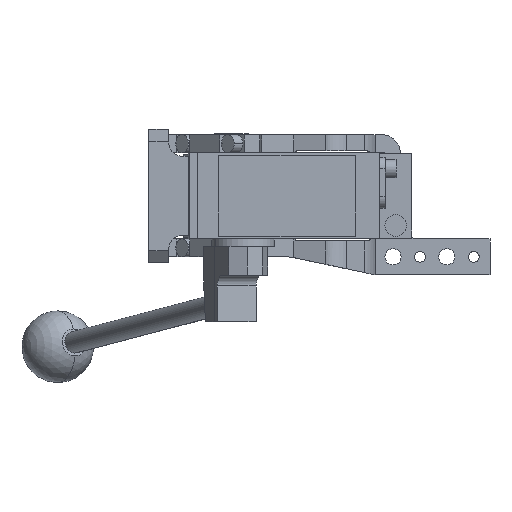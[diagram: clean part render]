
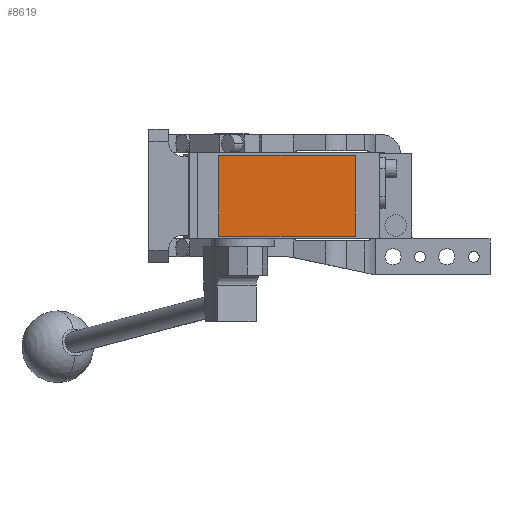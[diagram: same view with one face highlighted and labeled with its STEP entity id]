
A CAD part, front view. The second image highlights one B-rep face of the part: STEP entity #8619.
In plain terms, the highlighted planar face has unit normal (0, -1, 0).
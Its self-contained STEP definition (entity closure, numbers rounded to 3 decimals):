
#1184 = EDGE_LOOP ( 'NONE', ( #5316, #10531, #4760, #8183 ) ) ;
#1994 = PLANE ( 'NONE',  #3265 ) ;
#2323 = DIRECTION ( 'NONE',  ( 0., 0., -1. ) ) ;
#2439 = VECTOR ( 'NONE', #4949, 1000. ) ;
#3101 = EDGE_CURVE ( 'NONE', #3399, #8739, #7223, .T. ) ;
#3265 = AXIS2_PLACEMENT_3D ( 'NONE', #12207, #14716, #2323 ) ;
#3399 = VERTEX_POINT ( 'NONE', #9726 ) ;
#4120 = CARTESIAN_POINT ( 'NONE',  ( -7., -280.5, 22.5 ) ) ;
#4760 = ORIENTED_EDGE ( 'NONE', *, *, #12086, .T. ) ;
#4949 = DIRECTION ( 'NONE',  ( 0., 0., 1. ) ) ;
#5316 = ORIENTED_EDGE ( 'NONE', *, *, #3101, .T. ) ;
#5391 = CARTESIAN_POINT ( 'NONE',  ( 69., -280.5, -22.5 ) ) ;
#6009 = DIRECTION ( 'NONE',  ( 0., 0., -1. ) ) ;
#6017 = LINE ( 'NONE', #13669, #2439 ) ;
#6115 = CARTESIAN_POINT ( 'NONE',  ( -7., -280.5, -22.5 ) ) ;
#7223 = LINE ( 'NONE', #15892, #15905 ) ;
#7536 = VERTEX_POINT ( 'NONE', #7990 ) ;
#7990 = CARTESIAN_POINT ( 'NONE',  ( 69., -280.5, 22.5 ) ) ;
#8183 = ORIENTED_EDGE ( 'NONE', *, *, #9652, .T. ) ;
#8541 = LINE ( 'NONE', #6115, #13691 ) ;
#8619 = ADVANCED_FACE ( 'NONE', ( #10961 ), #1994, .T. ) ;
#8739 = VERTEX_POINT ( 'NONE', #15130 ) ;
#9652 = EDGE_CURVE ( 'NONE', #7536, #3399, #15292, .T. ) ;
#9726 = CARTESIAN_POINT ( 'NONE',  ( -7., -280.5, 22.5 ) ) ;
#10531 = ORIENTED_EDGE ( 'NONE', *, *, #14756, .T. ) ;
#10961 = FACE_OUTER_BOUND ( 'NONE', #1184, .T. ) ;
#12086 = EDGE_CURVE ( 'NONE', #14914, #7536, #6017, .T. ) ;
#12207 = CARTESIAN_POINT ( 'NONE',  ( 0., -280.5, 0. ) ) ;
#12854 = DIRECTION ( 'NONE',  ( -1., 0., 0. ) ) ;
#13480 = VECTOR ( 'NONE', #12854, 1000. ) ;
#13669 = CARTESIAN_POINT ( 'NONE',  ( 69., -280.5, 22.5 ) ) ;
#13691 = VECTOR ( 'NONE', #16080, 1000. ) ;
#14716 = DIRECTION ( 'NONE',  ( 0., -1., 0. ) ) ;
#14756 = EDGE_CURVE ( 'NONE', #8739, #14914, #8541, .T. ) ;
#14914 = VERTEX_POINT ( 'NONE', #5391 ) ;
#15130 = CARTESIAN_POINT ( 'NONE',  ( -7., -280.5, -22.5 ) ) ;
#15292 = LINE ( 'NONE', #4120, #13480 ) ;
#15892 = CARTESIAN_POINT ( 'NONE',  ( -7., -280.5, 22.5 ) ) ;
#15905 = VECTOR ( 'NONE', #6009, 1000. ) ;
#16080 = DIRECTION ( 'NONE',  ( 1., 0., 0. ) ) ;
